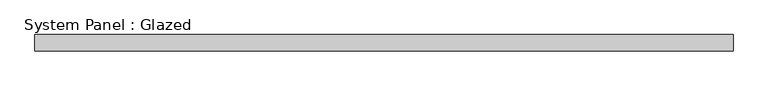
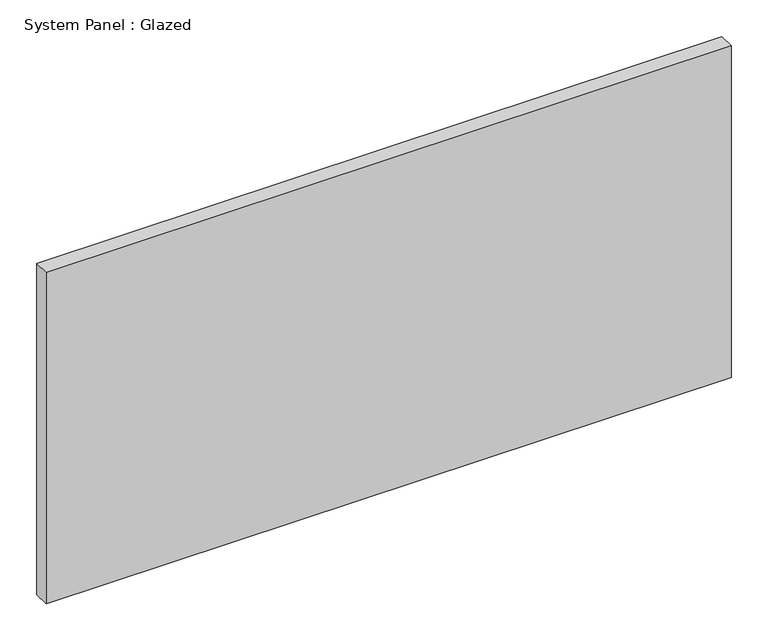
"""IFC4 building model written with IfcOpenShell, lengths in millimetres: plate geometry, System Panel : Glazed."""

import ifcopenshell
import ifcopenshell.guid

model = None  # the IFC model being written
_history = None  # IfcOwnerHistory: only IFC2X3 demands one
_inside = {}  # id of a spatial element -> (the spatial element, [elements in it])
_under = {}  # id of a project, library or spatial element -> (it, [spatial elements below it])
_declared = {}  # id of a project -> (the project, [libraries it declares])
_typed = {}  # id of a type object -> (the type object, [elements of that type])
_made_of = {}  # id of a material, layer set ... -> (it, [elements and type objects made of it])


def new_model(schema):
    """Start an empty IFC model of exactly this schema.

    Asked for "IFC4X3", IfcOpenShell would pick the latest addendum, in which some entities
    have other attributes; the version numbers below select the first issue.
    IFC2X3 requires an IfcOwnerHistory on every rooted entity: one is made here for all.
    """
    global model, _history
    if schema == "IFC4X3":
        model = ifcopenshell.file(schema_version=(4, 3, 0, 0))
    else:
        model = ifcopenshell.file(schema=schema)
    _inside.clear()
    _under.clear()
    _declared.clear()
    _typed.clear()
    _made_of.clear()
    _history = None
    if model.schema == "IFC2X3":
        org = make("IfcOrganization", Name="unknown")
        user = make(
            "IfcPersonAndOrganization",
            ThePerson=make("IfcPerson", FamilyName="unknown"),
            TheOrganization=org,
        )
        app = make(
            "IfcApplication",
            ApplicationDeveloper=org,
            Version="unknown",
            ApplicationFullName="unknown",
            ApplicationIdentifier="unknown",
        )
        _history = make(
            "IfcOwnerHistory",
            OwningUser=user,
            OwningApplication=app,
            ChangeAction="ADDED",
            CreationDate=0,
        )
    return model


def make(cls, **values):
    """One entity of the class cls with the attributes given. An attribute that is None is left unset."""
    return model.create_entity(
        cls, **{name: value for name, value in values.items() if value is not None}
    )


def rooted(cls, **values):
    """An entity with a GlobalId (a new one), such as an element, a storey or a relation."""
    return make(cls, GlobalId=ifcopenshell.guid.new(), OwnerHistory=_history, **values)


def si_unit(unit_type, name, prefix=None):
    """IfcSIUnit, for example si_unit("LENGTHUNIT", "METRE", prefix="MILLI")."""
    return make("IfcSIUnit", UnitType=unit_type, Prefix=prefix, Name=name)


def assignment(units):
    """IfcUnitAssignment: the units of a project."""
    return None if units is None else make("IfcUnitAssignment", Units=units)


def point(xyz):
    """IfcCartesianPoint."""
    return None if xyz is None else make("IfcCartesianPoint", Coordinates=xyz)


def direction(xyz):
    """IfcDirection."""
    return None if xyz is None else make("IfcDirection", DirectionRatios=xyz)


def frame(location, z_axis=None, x_axis=None):
    """IfcAxis2Placement3D, a coordinate frame: its origin and axes. An axis left out is left unset."""
    return make(
        "IfcAxis2Placement3D",
        Location=point(location),
        Axis=direction(z_axis),
        RefDirection=direction(x_axis),
    )


def origin():
    """The frame at (0, 0, 0) with its axes left unset."""
    return frame((0.0, 0.0, 0.0))


def origin_with_axes():
    """The frame at (0, 0, 0) with the z axis (0, 0, 1) and the x axis (1, 0, 0) written out."""
    return frame((0.0, 0.0, 0.0), z_axis=(0.0, 0.0, 1.0), x_axis=(1.0, 0.0, 0.0))


def place(relative_to, where):
    """IfcLocalPlacement: puts the frame where relative to a parent placement (None: the world)."""
    return make(
        "IfcLocalPlacement", PlacementRelTo=relative_to, RelativePlacement=where
    )


def context(
    kind, dimensions, precision=None, world=None, true_north=None, identifier=None
):
    """IfcGeometricRepresentationContext, for example the 3D "Model" context."""
    return make(
        "IfcGeometricRepresentationContext",
        ContextIdentifier=identifier,
        ContextType=kind,
        CoordinateSpaceDimension=dimensions,
        Precision=precision,
        WorldCoordinateSystem=world,
        TrueNorth=true_north,
    )


def project(units=None, contexts=None):
    """IfcProject with its units and contexts."""
    return rooted(
        "IfcProject",
        Name="project",
        RepresentationContexts=contexts,
        UnitsInContext=assignment(units),
    )


def spatial(cls, under=None, at=None, **own):
    """A site, building, storey or space (cls), placed at a placement, below another one or the project."""
    s = rooted(cls, ObjectPlacement=at, **own)
    if under is not None:
        _under.setdefault(under.id(), (under, []))[1].append(s)
    return s


def polyline(points):
    """IfcPolyline through the points."""
    return make("IfcPolyline", Points=[point(p) for p in points])


def outline(outer, holes=None, kind="AREA"):
    """IfcArbitraryClosedProfileDef: a profile drawn as a closed curve; with holes, ...WithVoids."""
    if holes is None:
        return make("IfcArbitraryClosedProfileDef", ProfileType=kind, OuterCurve=outer)
    return make(
        "IfcArbitraryProfileDefWithVoids",
        ProfileType=kind,
        OuterCurve=outer,
        InnerCurves=holes,
    )


def extrude(swept, where, along, depth):
    """IfcExtrudedAreaSolid: the profile swept, set in the frame where, extruded along a direction by depth."""
    return make(
        "IfcExtrudedAreaSolid",
        SweptArea=swept,
        Position=where,
        ExtrudedDirection=direction(along),
        Depth=depth,
    )


def shape(context_of_items, identifier, shape_type, items):
    """IfcShapeRepresentation: the items that make up one representation, for example the "Body"."""
    return make(
        "IfcShapeRepresentation",
        ContextOfItems=context_of_items,
        RepresentationIdentifier=identifier,
        RepresentationType=shape_type,
        Items=items,
    )


def source(mapping_origin, context_of_items, identifier, shape_type, items):
    """IfcRepresentationMap: a shape defined once, which mapped items show again and again."""
    return make(
        "IfcRepresentationMap",
        MappingOrigin=mapping_origin,
        MappedRepresentation=shape(context_of_items, identifier, shape_type, items),
    )


def transform(
    local_origin,
    x_axis=None,
    y_axis=None,
    z_axis=None,
    scale=None,
    scale2=None,
    scale3=None,
    uniform=True,
):
    """IfcCartesianTransformationOperator3D, or its non-uniform kind. x_axis, y_axis, z_axis: its Axis1, 2, 3."""
    if uniform:
        return make(
            "IfcCartesianTransformationOperator3D",
            Axis1=direction(x_axis),
            Axis2=direction(y_axis),
            LocalOrigin=point(local_origin),
            Scale=scale,
            Axis3=direction(z_axis),
        )
    return make(
        "IfcCartesianTransformationOperator3DnonUniform",
        Axis1=direction(x_axis),
        Axis2=direction(y_axis),
        LocalOrigin=point(local_origin),
        Scale=scale,
        Axis3=direction(z_axis),
        Scale2=scale2,
        Scale3=scale3,
    )


def mapped(mapping_source, mapping_target):
    """IfcMappedItem: shows the shape of a source again, moved by a transform."""
    return make(
        "IfcMappedItem", MappingSource=mapping_source, MappingTarget=mapping_target
    )


def made_of(thing, what):
    """Note that an element or type object is made of a material, layer set ...; save() writes the relation."""
    if what is not None:
        _made_of.setdefault(what.id(), (what, []))[1].append(thing)
    return thing


def element(
    cls,
    number,
    at=None,
    inside=None,
    cuts=None,
    type_object=None,
    material=None,
    context=None,
    identifier="Body",
    shape_type=None,
    held_by="IfcProductDefinitionShape",
    body=None,
    shapes=None,
    **own,
):
    """One element of the class cls, such as IfcWall. Its Tag is "e" and its number.

    at: its placement. inside: the storey or other place that contains it. cuts: it is an
    opening in that element (IfcRelVoidsElement). A single representation is given by context,
    identifier, shape_type and body (its items); several are given by shapes. held_by: the class
    of the entity that holds the representations. save() writes the other relations.
    """
    e = rooted(cls, Tag="e%d" % number, ObjectPlacement=at, **own)
    if body is not None:
        shapes = [shape(context, identifier, shape_type, body)]
    if shapes is not None:
        e.Representation = make(held_by, Representations=shapes)
    if inside is not None:
        _inside.setdefault(inside.id(), (inside, []))[1].append(e)
    if cuts is not None:
        rooted(
            "IfcRelVoidsElement", RelatingBuildingElement=cuts, RelatedOpeningElement=e
        )
    if type_object is not None:
        _typed.setdefault(type_object.id(), (type_object, []))[1].append(e)
    return made_of(e, material)


def aggregate(whole, parts):
    """IfcRelAggregates: a whole, such as a stair, and the parts it consists of."""
    return rooted("IfcRelAggregates", RelatingObject=whole, RelatedObjects=parts)


def save(model, path):
    """Write the relations noted so far, then the file.

    IfcRelAggregates (storeys below a building ...), IfcRelContainedInSpatialStructure (elements
    in a storey), IfcRelDefinesByType, IfcRelAssociatesMaterial and IfcRelDeclares: one each for
    every whole, place, type object, material and project.
    """
    for whole, parts in _under.values():
        aggregate(whole, parts)
    for where, things in _inside.values():
        rooted(
            "IfcRelContainedInSpatialStructure",
            RelatedElements=things,
            RelatingStructure=where,
        )
    for kind, things in _typed.values():
        rooted("IfcRelDefinesByType", RelatedObjects=things, RelatingType=kind)
    for what, things in _made_of.values():
        rooted("IfcRelAssociatesMaterial", RelatedObjects=things, RelatingMaterial=what)
    for by, libraries in _declared.values():
        rooted("IfcRelDeclares", RelatingContext=by, RelatedDefinitions=libraries)
    model.write(path)


def system_panel_glazed_a4c32394(model_context):
    return source(origin(), model_context, "Body", "SweptSolid", [
        extrude(outline(polyline([(537.5000001, 24.5), (-537.5000001, 24.5), (-537.5000001, 49.5), (537.5000001, 49.5), (537.5000001, 24.5)])), origin_with_axes(), (0.0, 0.0, 1.0), 550.0),
    ])


if __name__ == "__main__":
    model = new_model("IFC4")
    model_context = context("Model", 3, world=origin())
    ifc_project = project(units=[si_unit("LENGTHUNIT", "METRE", prefix="MILLI")], contexts=[model_context])
    site = spatial("IfcSite", under=ifc_project)
    building = spatial("IfcBuilding", under=site)
    placement = place(None, origin())
    system_panel_glazed_shape = system_panel_glazed_a4c32394(model_context)
    element("IfcPlate", 1, ObjectType="System Panel : Glazed", at=placement, inside=building, context=model_context, shape_type="MappedRepresentation", body=[
        mapped(system_panel_glazed_shape, transform((0.0, 0.0, 0.0), x_axis=(1.0, 0.0, 0.0), y_axis=(0.0, 1.0, 0.0), z_axis=(0.0, 0.0, 1.0))),
    ])
    save(model, "model.ifc")
